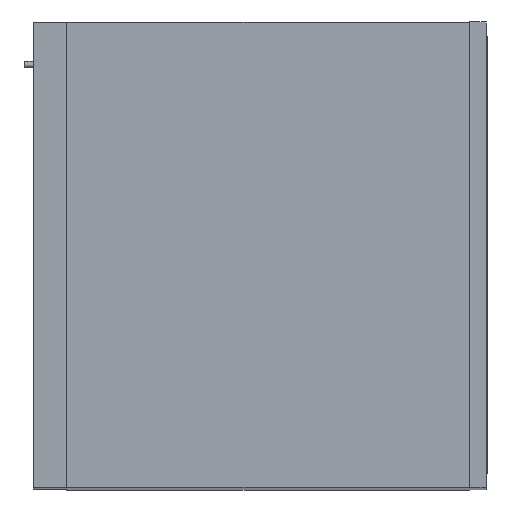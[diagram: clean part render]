
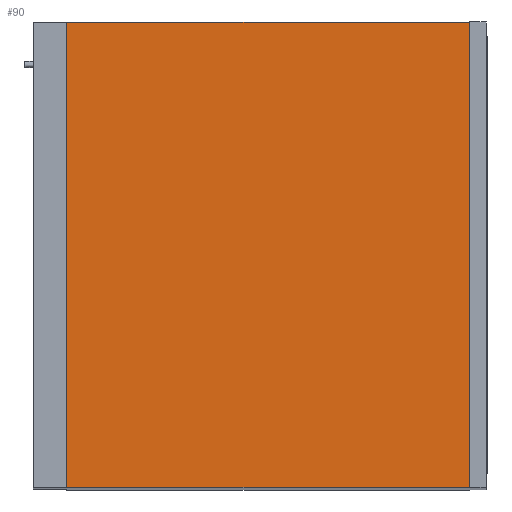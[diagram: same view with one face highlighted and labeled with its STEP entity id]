
A CAD part, top view. The second image highlights one B-rep face of the part: STEP entity #90.
In plain terms, the highlighted free-form (B-spline) face has degree [1, 1] with [2, 2] control points.
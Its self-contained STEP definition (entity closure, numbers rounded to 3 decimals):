
#90=ADVANCED_FACE('',(#130),#532,.T.);
#130=FACE_OUTER_BOUND('',#170,.T.);
#170=EDGE_LOOP('',(#307,#308,#309,#310));
#307=ORIENTED_EDGE('',*,*,#421,.F.);
#308=ORIENTED_EDGE('',*,*,#420,.T.);
#309=ORIENTED_EDGE('',*,*,#413,.T.);
#310=ORIENTED_EDGE('',*,*,#417,.F.);
#413=EDGE_CURVE('',#484,#483,#599,.T.);
#417=EDGE_CURVE('',#486,#483,#603,.T.);
#420=EDGE_CURVE('',#488,#484,#606,.T.);
#421=EDGE_CURVE('',#488,#486,#607,.T.);
#483=VERTEX_POINT('',#1198);
#484=VERTEX_POINT('',#1199);
#486=VERTEX_POINT('',#1201);
#488=VERTEX_POINT('',#1203);
#532=B_SPLINE_SURFACE_WITH_KNOTS('',1,1,((#1192,#1193),(#1194,#1195)),.UNSPECIFIED.,
.F.,.F.,.F.,(2,2),(2,2),(0.,1.),(0.,1.),.UNSPECIFIED.);
#599=B_SPLINE_CURVE_WITH_KNOTS('',1,(#1146,#1147),.UNSPECIFIED.,.F.,.F.,
(2,2),(0.,1.),.UNSPECIFIED.);
#603=B_SPLINE_CURVE_WITH_KNOTS('',1,(#1154,#1155),.UNSPECIFIED.,.F.,.F.,
(2,2),(0.,1.),.UNSPECIFIED.);
#606=B_SPLINE_CURVE_WITH_KNOTS('',1,(#1162,#1163),.UNSPECIFIED.,.F.,.F.,
(2,2),(0.,1.),.UNSPECIFIED.);
#607=B_SPLINE_CURVE_WITH_KNOTS('',1,(#1164,#1165),.UNSPECIFIED.,.F.,.F.,
(2,2),(0.,1.),.UNSPECIFIED.);
#1146=CARTESIAN_POINT('',(-20.174,279.5,1770.));
#1147=CARTESIAN_POINT('',(-504.174,279.5,1770.));
#1154=CARTESIAN_POINT('',(-504.174,-279.5,1770.));
#1155=CARTESIAN_POINT('',(-504.174,279.5,1770.));
#1162=CARTESIAN_POINT('',(-20.174,-279.5,1770.));
#1163=CARTESIAN_POINT('',(-20.174,279.5,1770.));
#1164=CARTESIAN_POINT('',(-20.174,-279.5,1770.));
#1165=CARTESIAN_POINT('',(-504.174,-279.5,1770.));
#1192=CARTESIAN_POINT('',(-20.174,-279.5,1770.));
#1193=CARTESIAN_POINT('',(-504.174,-279.5,1770.));
#1194=CARTESIAN_POINT('',(-20.174,279.5,1770.));
#1195=CARTESIAN_POINT('',(-504.174,279.5,1770.));
#1198=CARTESIAN_POINT('',(-504.174,279.5,1770.));
#1199=CARTESIAN_POINT('',(-20.174,279.5,1770.));
#1201=CARTESIAN_POINT('',(-504.174,-279.5,1770.));
#1203=CARTESIAN_POINT('',(-20.174,-279.5,1770.));
